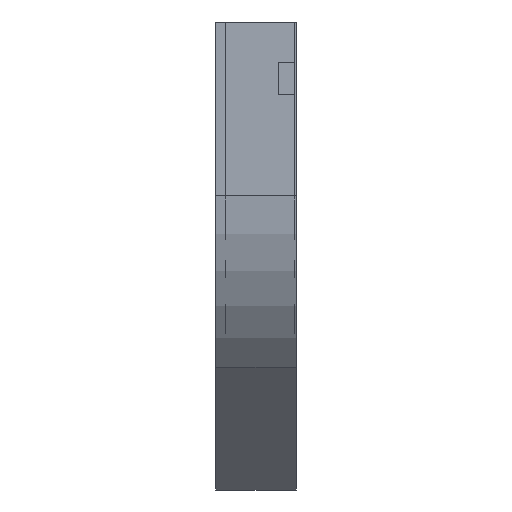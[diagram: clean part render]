
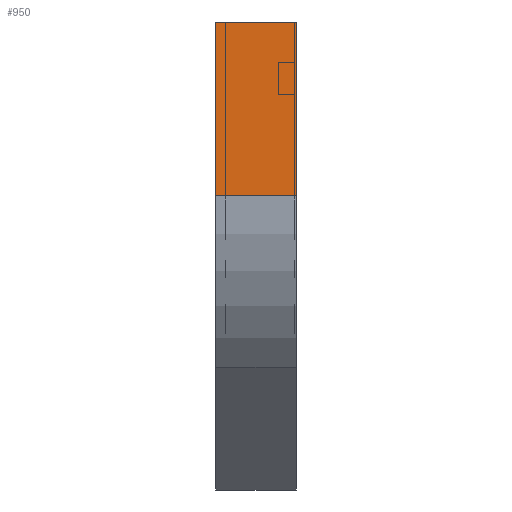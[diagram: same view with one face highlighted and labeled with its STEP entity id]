
A CAD part, left-side view. The second image highlights one B-rep face of the part: STEP entity #950.
In plain terms, the highlighted planar face has unit normal (-1, 0, 0).
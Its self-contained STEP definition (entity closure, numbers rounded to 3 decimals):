
#12 = LINE ( 'NONE', #1481, #506 ) ;
#59 = CARTESIAN_POINT ( 'NONE',  ( 0., 0., 0. ) ) ;
#116 = VERTEX_POINT ( 'NONE', #331 ) ;
#132 = CARTESIAN_POINT ( 'NONE',  ( 0., 0., 0. ) ) ;
#198 = VERTEX_POINT ( 'NONE', #59 ) ;
#225 = VECTOR ( 'NONE', #1706, 1000. ) ;
#233 = LINE ( 'NONE', #480, #1445 ) ;
#238 = ORIENTED_EDGE ( 'NONE', *, *, #1262, .T. ) ;
#280 = EDGE_CURVE ( 'NONE', #198, #1344, #967, .T. ) ;
#330 = AXIS2_PLACEMENT_3D ( 'NONE', #132, #1446, #1839 ) ;
#331 = CARTESIAN_POINT ( 'NONE',  ( 0., 100., -215.685 ) ) ;
#430 = PLANE ( 'NONE',  #330 ) ;
#464 = DIRECTION ( 'NONE',  ( 0., -1., 0. ) ) ;
#473 = CARTESIAN_POINT ( 'NONE',  ( 0., 0., -215.685 ) ) ;
#480 = CARTESIAN_POINT ( 'NONE',  ( 0., 100., 0. ) ) ;
#506 = VECTOR ( 'NONE', #1032, 1000. ) ;
#814 = ORIENTED_EDGE ( 'NONE', *, *, #1324, .F. ) ;
#840 = EDGE_LOOP ( 'NONE', ( #1660, #814, #238, #975 ) ) ;
#880 = EDGE_CURVE ( 'NONE', #116, #1344, #1167, .T. ) ;
#950 = ADVANCED_FACE ( 'NONE', ( #1728 ), #430, .F. ) ;
#967 = LINE ( 'NONE', #1110, #225 ) ;
#975 = ORIENTED_EDGE ( 'NONE', *, *, #880, .T. ) ;
#1032 = DIRECTION ( 'NONE',  ( 0., -1., 0. ) ) ;
#1110 = CARTESIAN_POINT ( 'NONE',  ( 0., 0., 0. ) ) ;
#1131 = VERTEX_POINT ( 'NONE', #1490 ) ;
#1167 = LINE ( 'NONE', #1482, #1241 ) ;
#1241 = VECTOR ( 'NONE', #464, 1000. ) ;
#1262 = EDGE_CURVE ( 'NONE', #1131, #116, #233, .T. ) ;
#1324 = EDGE_CURVE ( 'NONE', #1131, #198, #12, .T. ) ;
#1344 = VERTEX_POINT ( 'NONE', #473 ) ;
#1445 = VECTOR ( 'NONE', #1680, 1000. ) ;
#1446 = DIRECTION ( 'NONE',  ( 1., 0., 0. ) ) ;
#1481 = CARTESIAN_POINT ( 'NONE',  ( 0., 0., 0. ) ) ;
#1482 = CARTESIAN_POINT ( 'NONE',  ( 0., 0., -215.685 ) ) ;
#1490 = CARTESIAN_POINT ( 'NONE',  ( 0., 100., 0. ) ) ;
#1660 = ORIENTED_EDGE ( 'NONE', *, *, #280, .F. ) ;
#1680 = DIRECTION ( 'NONE',  ( 0., 0., -1. ) ) ;
#1706 = DIRECTION ( 'NONE',  ( 0., 0., -1. ) ) ;
#1728 = FACE_OUTER_BOUND ( 'NONE', #840, .T. ) ;
#1839 = DIRECTION ( 'NONE',  ( 0., 0., -1. ) ) ;
